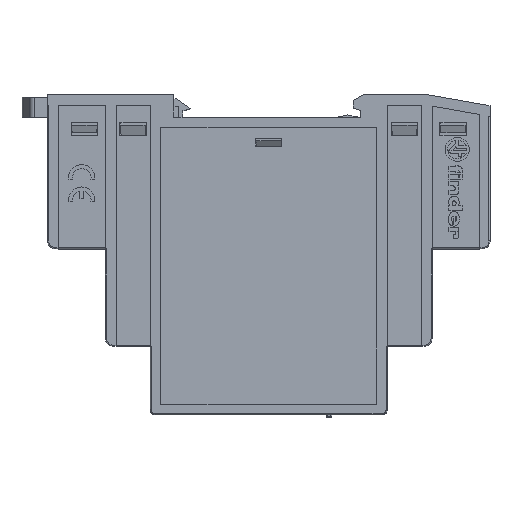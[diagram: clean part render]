
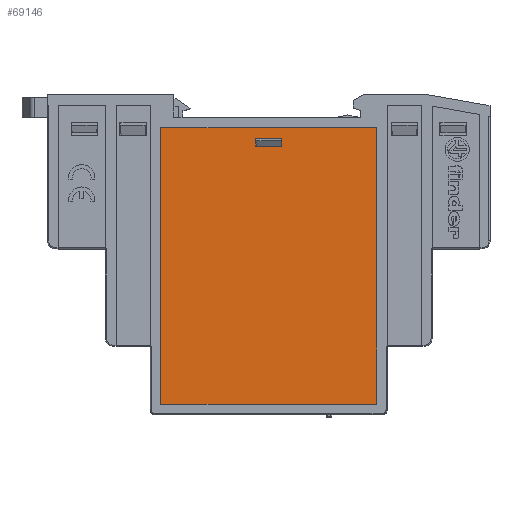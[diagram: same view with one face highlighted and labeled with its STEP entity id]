
A CAD part, top view. The second image highlights one B-rep face of the part: STEP entity #69146.
In plain terms, the highlighted planar face has unit normal (0, 0, 1).
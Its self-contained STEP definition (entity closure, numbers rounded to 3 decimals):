
#6775=ORIENTED_EDGE('',*,*,#25621,.F.);
#6776=ORIENTED_EDGE('',*,*,#25622,.F.);
#6777=ORIENTED_EDGE('',*,*,#25623,.F.);
#6778=ORIENTED_EDGE('',*,*,#25624,.T.);
#6779=ORIENTED_EDGE('',*,*,#25625,.T.);
#6780=ORIENTED_EDGE('',*,*,#25626,.F.);
#6781=ORIENTED_EDGE('',*,*,#24750,.T.);
#6782=ORIENTED_EDGE('',*,*,#24748,.F.);
#6783=ORIENTED_EDGE('',*,*,#24746,.F.);
#6784=ORIENTED_EDGE('',*,*,#24745,.F.);
#24745=EDGE_CURVE('',#34500,#34499,#41315,.T.);
#24746=EDGE_CURVE('',#34499,#34501,#41316,.T.);
#24748=EDGE_CURVE('',#34501,#34502,#41318,.T.);
#24750=EDGE_CURVE('',#34500,#34502,#41320,.T.);
#25621=EDGE_CURVE('',#35245,#35246,#42020,.T.);
#25622=EDGE_CURVE('',#35247,#35245,#42021,.T.);
#25623=EDGE_CURVE('',#35248,#35247,#42022,.T.);
#25624=EDGE_CURVE('',#35248,#35249,#42023,.T.);
#25625=EDGE_CURVE('',#35249,#35250,#42024,.T.);
#25626=EDGE_CURVE('',#35246,#35250,#42025,.T.);
#34499=VERTEX_POINT('',#123815);
#34500=VERTEX_POINT('',#123817);
#34501=VERTEX_POINT('',#123821);
#34502=VERTEX_POINT('',#123825);
#35245=VERTEX_POINT('',#126323);
#35246=VERTEX_POINT('',#126324);
#35247=VERTEX_POINT('',#126326);
#35248=VERTEX_POINT('',#126328);
#35249=VERTEX_POINT('',#126330);
#35250=VERTEX_POINT('',#126332);
#41315=LINE('',#123818,#49860);
#41316=LINE('',#123820,#49861);
#41318=LINE('',#123824,#49863);
#41320=LINE('',#123828,#49865);
#42020=LINE('',#126322,#50565);
#42021=LINE('',#126325,#50566);
#42022=LINE('',#126327,#50567);
#42023=LINE('',#126329,#50568);
#42024=LINE('',#126331,#50569);
#42025=LINE('',#126333,#50570);
#49860=VECTOR('',#104348,1000.);
#49861=VECTOR('',#104351,1000.);
#49863=VECTOR('',#104355,1000.);
#49865=VECTOR('',#104359,1000.);
#50565=VECTOR('',#105705,1000.);
#50566=VECTOR('',#105706,1000.);
#50567=VECTOR('',#105707,1000.);
#50568=VECTOR('',#105708,1000.);
#50569=VECTOR('',#105709,1000.);
#50570=VECTOR('',#105710,1000.);
#58177=EDGE_LOOP('',(#6775,#6776,#6777,#6778,#6779,#6780));
#58178=EDGE_LOOP('',(#6781,#6782,#6783,#6784));
#62213=FACE_BOUND('',#58177,.T.);
#62214=FACE_BOUND('',#58178,.T.);
#65957=PLANE('',#97879);
#69146=ADVANCED_FACE('',(#62213,#62214),#65957,.F.);
#97879=AXIS2_PLACEMENT_3D('',#126321,#105703,#105704);
#104348=DIRECTION('',(-1.,0.,0.));
#104351=DIRECTION('',(0.,-1.,0.));
#104355=DIRECTION('',(1.,0.,0.));
#104359=DIRECTION('',(0.,-1.,0.));
#105703=DIRECTION('',(0.,0.,-1.));
#105704=DIRECTION('',(1.,0.,0.));
#105705=DIRECTION('',(-1.,0.,0.));
#105706=DIRECTION('',(0.,-1.,0.));
#105707=DIRECTION('',(0.,-1.,0.));
#105708=DIRECTION('',(-1.,0.,0.));
#105709=DIRECTION('',(0.,-1.,0.));
#105710=DIRECTION('',(0.,1.,0.));
#123815=CARTESIAN_POINT('',(-17.5,47.5,3.5));
#123817=CARTESIAN_POINT('',(-12.5,47.5,3.5));
#123818=CARTESIAN_POINT('',(-12.5,47.5,3.5));
#123820=CARTESIAN_POINT('',(-17.5,47.5,3.5));
#123821=CARTESIAN_POINT('',(-17.5,46.,3.5));
#123824=CARTESIAN_POINT('',(-17.5,46.,3.5));
#123825=CARTESIAN_POINT('',(-12.5,46.,3.5));
#123828=CARTESIAN_POINT('',(-12.5,47.5,3.5));
#126321=CARTESIAN_POINT('',(9.603,-3.303,3.5));
#126322=CARTESIAN_POINT('',(5.5,-3.,3.5));
#126323=CARTESIAN_POINT('',(5.5,-3.,3.5));
#126324=CARTESIAN_POINT('',(-35.5,-3.,3.5));
#126325=CARTESIAN_POINT('',(5.5,-0.5,3.5));
#126326=CARTESIAN_POINT('',(5.5,-0.5,3.5));
#126327=CARTESIAN_POINT('',(5.5,49.5,3.5));
#126328=CARTESIAN_POINT('',(5.5,49.5,3.5));
#126329=CARTESIAN_POINT('',(5.5,49.5,3.5));
#126330=CARTESIAN_POINT('',(-35.5,49.5,3.5));
#126331=CARTESIAN_POINT('',(-35.5,49.5,3.5));
#126332=CARTESIAN_POINT('',(-35.5,-0.5,3.5));
#126333=CARTESIAN_POINT('',(-35.5,-3.,3.5));
